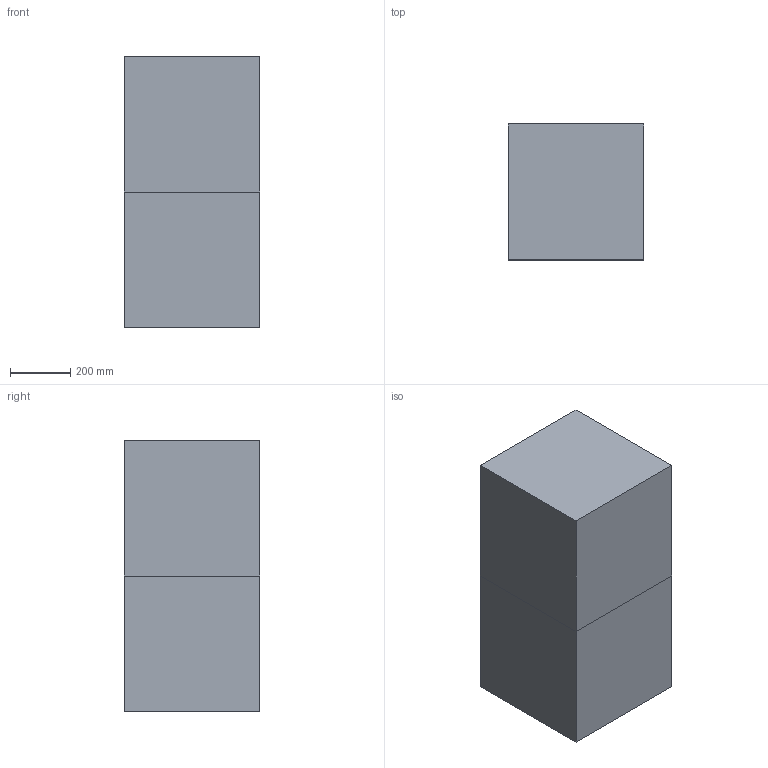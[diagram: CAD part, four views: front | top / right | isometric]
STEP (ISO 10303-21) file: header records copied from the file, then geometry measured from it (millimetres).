
FILE_DESCRIPTION (( 'STEP AP203' ), '1' );
FILE_NAME ('Extrabox Planter Type A.STEP', '2019-01-15T13:44:57', ( '' ), ( '' ), 'SwSTEP 2.0', 'SolidWorks 2019', '' );
FILE_SCHEMA (( 'CONFIG_CONTROL_DESIGN' ));
Length unit declared in the file: millimetre
Products named in the file (3): Extrabox Cubby Type A_Domy˜lna; Extrabox Type A_Domy˜lna; Extrabox Planter Type A
Assembly tree (2 placements, depth 2):
  Extrabox Planter Type A
    Extrabox Cubby Type A_Domy˜lna
    Extrabox Type A_Domy˜lna
Bounding box: 450 x 450 x 900 mm (x, y, z)
Volume: 109164936 mm3; surface area: 3198656 mm2
Topology: 2 solids, 2 shells, 38 faces, 96 edges, 64 vertices
Faces by surface type: plane 38
Entity records: 1425 total; most frequent: CARTESIAN_POINT 203, ORIENTED_EDGE 192, DIRECTION 182, VECTOR 96, LINE 96, EDGE_CURVE 96, VERTEX_POINT 64, AXIS2_PLACEMENT_3D 43
